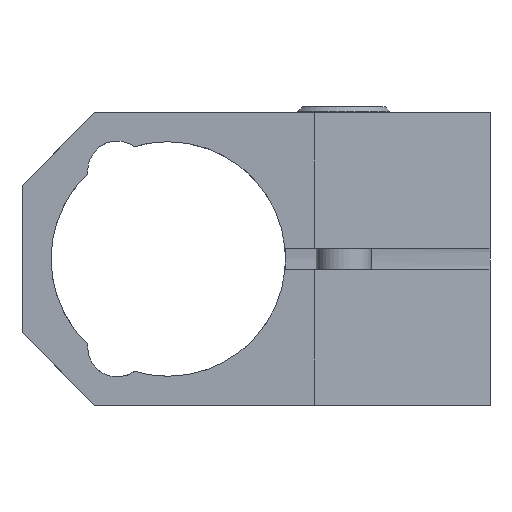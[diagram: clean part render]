
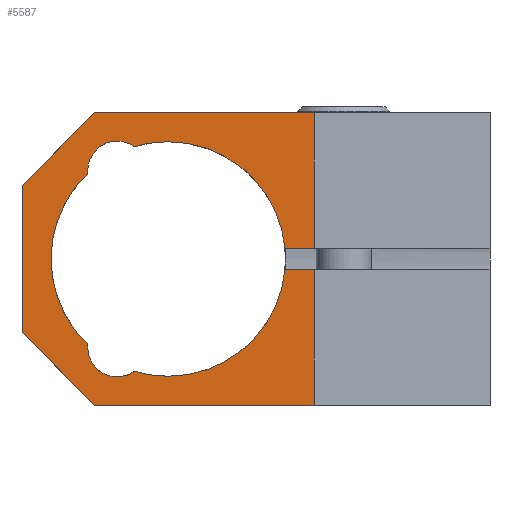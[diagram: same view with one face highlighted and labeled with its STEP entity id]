
A CAD part, front view. The second image highlights one B-rep face of the part: STEP entity #5587.
In plain terms, the highlighted planar face has unit normal (0, -1, 0).
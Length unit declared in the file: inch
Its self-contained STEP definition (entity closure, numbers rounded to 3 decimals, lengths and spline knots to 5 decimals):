
#1632 = EDGE_CURVE ( 'NONE', #11396, #12688, #12084, .T. ) ;
#1634 = EDGE_CURVE ( 'NONE', #12762, #12839, #12083, .T. ) ;
#1636 = EDGE_CURVE ( 'NONE', #12784, #12839, #12086, .T. ) ;
#1638 = EDGE_CURVE ( 'NONE', #12936, #11216, #12088, .T. ) ;
#1640 = EDGE_CURVE ( 'NONE', #11830, #12944, #12090, .T. ) ;
#1643 = EDGE_CURVE ( 'NONE', #13176, #12652, #12092, .T. ) ;
#1645 = EDGE_CURVE ( 'NONE', #11914, #12756, #12094, .T. ) ;
#1647 = EDGE_CURVE ( 'NONE', #12570, #13162, #12095, .T. ) ;
#2208 = EDGE_CURVE ( 'NONE', #12936, #12784, #4326, .T. ) ;
#3857 = EDGE_LOOP ( 'NONE', ( #10645, #10503, #10673, #10507, #10656, #10653, #10650, #10658, #10660, #10661, #10512, #10665, #10575, #10570, #10572, #10509, #10517 ) ) ;
#4326 = LINE ( 'NONE', #19300, #4327 ) ;
#4327 = VECTOR ( 'NONE', #18859, 39.37008 ) ;
#5587 = ADVANCED_FACE ( 'NONE', ( #20102 ), #13530, .T. ) ;
#6504 = LINE ( 'NONE', #21967, #6506 ) ;
#6506 = VECTOR ( 'NONE', #21966, 39.37008 ) ;
#6512 = LINE ( 'NONE', #21963, #6514 ) ;
#6514 = VECTOR ( 'NONE', #21962, 39.37008 ) ;
#6564 = LINE ( 'NONE', #21931, #6566 ) ;
#6566 = VECTOR ( 'NONE', #21930, 39.37008 ) ;
#6641 = CIRCLE ( 'NONE', #9157, 0.501 ) ;
#6652 = CIRCLE ( 'NONE', #9159, 0.501 ) ;
#6664 = CIRCLE ( 'NONE', #9164, 0.501 ) ;
#6774 = CIRCLE ( 'NONE', #15116, 0.501 ) ;
#6907 = DIRECTION ( 'NONE',  ( 0., 0., -1. ) ) ;
#6908 = DIRECTION ( 'NONE',  ( 0., -1., 0. ) ) ;
#6909 = CARTESIAN_POINT ( 'NONE',  ( 0.40625, 0., -1.00389 ) ) ;
#6954 = CARTESIAN_POINT ( 'NONE',  ( 0.48024, 0., -1.10463 ) ) ;
#7048 = CARTESIAN_POINT ( 'NONE',  ( 0., 0., -0.94 ) ) ;
#7078 = CARTESIAN_POINT ( 'NONE',  ( 0.48024, 0., -0.14537 ) ) ;
#7089 = CARTESIAN_POINT ( 'NONE',  ( 0., 0., -0.31 ) ) ;
#9106 = AXIS2_PLACEMENT_3D ( 'NONE', #6909, #6908, #6907 ) ;
#9157 = AXIS2_PLACEMENT_3D ( 'NONE', #21817, #21816, #21815 ) ;
#9159 = AXIS2_PLACEMENT_3D ( 'NONE', #21689, #21688, #21687 ) ;
#9164 = AXIS2_PLACEMENT_3D ( 'NONE', #21678, #22863, #21842 ) ;
#10073 = AXIS2_PLACEMENT_3D ( 'NONE', #13529, #13528, #13527 ) ;
#10503 = ORIENTED_EDGE ( 'NONE', *, *, #19945, .F. ) ;
#10507 = ORIENTED_EDGE ( 'NONE', *, *, #1634, .T. ) ;
#10509 = ORIENTED_EDGE ( 'NONE', *, *, #1647, .F. ) ;
#10512 = ORIENTED_EDGE ( 'NONE', *, *, #15326, .F. ) ;
#10517 = ORIENTED_EDGE ( 'NONE', *, *, #19977, .F. ) ;
#10570 = ORIENTED_EDGE ( 'NONE', *, *, #1645, .F. ) ;
#10572 = ORIENTED_EDGE ( 'NONE', *, *, #11920, .F. ) ;
#10575 = ORIENTED_EDGE ( 'NONE', *, *, #19941, .F. ) ;
#10645 = ORIENTED_EDGE ( 'NONE', *, *, #1632, .F. ) ;
#10650 = ORIENTED_EDGE ( 'NONE', *, *, #1638, .T. ) ;
#10653 = ORIENTED_EDGE ( 'NONE', *, *, #2208, .F. ) ;
#10656 = ORIENTED_EDGE ( 'NONE', *, *, #1636, .F. ) ;
#10658 = ORIENTED_EDGE ( 'NONE', *, *, #15328, .F. ) ;
#10660 = ORIENTED_EDGE ( 'NONE', *, *, #1640, .T. ) ;
#10661 = ORIENTED_EDGE ( 'NONE', *, *, #15341, .T. ) ;
#10665 = ORIENTED_EDGE ( 'NONE', *, *, #1643, .T. ) ;
#10673 = ORIENTED_EDGE ( 'NONE', *, *, #19932, .F. ) ;
#10921 = DIRECTION ( 'NONE',  ( 0., 0., -1. ) ) ;
#10922 = DIRECTION ( 'NONE',  ( 0., -1., 0. ) ) ;
#10925 = CARTESIAN_POINT ( 'NONE',  ( 0.40625, 0., -1.00389 ) ) ;
#10926 = DIRECTION ( 'NONE',  ( 0., 0., -1. ) ) ;
#10927 = DIRECTION ( 'NONE',  ( 0., -1., 0. ) ) ;
#10928 = CARTESIAN_POINT ( 'NONE',  ( 0.625, 0., -0.625 ) ) ;
#10929 = DIRECTION ( 'NONE',  ( -1., 0., 0. ) ) ;
#10930 = CARTESIAN_POINT ( 'NONE',  ( 0.70835, 0., -0.67 ) ) ;
#10931 = DIRECTION ( 'NONE',  ( 0.707, 0., -0.707 ) ) ;
#10932 = CARTESIAN_POINT ( 'NONE',  ( 0.155, 0., -1.095 ) ) ;
#10933 = DIRECTION ( 'NONE',  ( -0.707, 0., -0.707 ) ) ;
#10934 = CARTESIAN_POINT ( 'NONE',  ( -0.47, 0., -0.78 ) ) ;
#10935 = DIRECTION ( 'NONE',  ( 0., 0., -1. ) ) ;
#10936 = CARTESIAN_POINT ( 'NONE',  ( 1.25, 0., -1.25 ) ) ;
#10937 = DIRECTION ( 'NONE',  ( 1., 0., 0. ) ) ;
#10938 = CARTESIAN_POINT ( 'NONE',  ( 0.70835, 0., -0.58 ) ) ;
#10939 = DIRECTION ( 'NONE',  ( 0., 0., -1. ) ) ;
#10940 = DIRECTION ( 'NONE',  ( 0., -1., 0. ) ) ;
#10941 = CARTESIAN_POINT ( 'NONE',  ( 0.40625, 0., -0.24611 ) ) ;
#11216 = VERTEX_POINT ( 'NONE', #7089 ) ;
#11396 = VERTEX_POINT ( 'NONE', #7078 ) ;
#11830 = VERTEX_POINT ( 'NONE', #7048 ) ;
#11914 = VERTEX_POINT ( 'NONE', #6954 ) ;
#11920 = EDGE_CURVE ( 'NONE', #13162, #11914, #15432, .T. ) ;
#12083 = LINE ( 'NONE', #10938, #12085 ) ;
#12084 = CIRCLE ( 'NONE', #20002, 0.125 ) ;
#12085 = VECTOR ( 'NONE', #10937, 39.37008 ) ;
#12086 = LINE ( 'NONE', #10936, #12087 ) ;
#12087 = VECTOR ( 'NONE', #10935, 39.37008 ) ;
#12088 = LINE ( 'NONE', #10934, #12089 ) ;
#12089 = VECTOR ( 'NONE', #10933, 39.37008 ) ;
#12090 = LINE ( 'NONE', #10932, #12091 ) ;
#12091 = VECTOR ( 'NONE', #10931, 39.37008 ) ;
#12092 = LINE ( 'NONE', #10930, #12093 ) ;
#12093 = VECTOR ( 'NONE', #10929, 39.37008 ) ;
#12094 = CIRCLE ( 'NONE', #20003, 0.501 ) ;
#12095 = CIRCLE ( 'NONE', #20004, 0.125 ) ;
#12570 = VERTEX_POINT ( 'NONE', #17949 ) ;
#12652 = VERTEX_POINT ( 'NONE', #17901 ) ;
#12688 = VERTEX_POINT ( 'NONE', #17878 ) ;
#12756 = VERTEX_POINT ( 'NONE', #17835 ) ;
#12762 = VERTEX_POINT ( 'NONE', #17831 ) ;
#12784 = VERTEX_POINT ( 'NONE', #17819 ) ;
#12839 = VERTEX_POINT ( 'NONE', #17783 ) ;
#12876 = VERTEX_POINT ( 'NONE', #17759 ) ;
#12936 = VERTEX_POINT ( 'NONE', #17705 ) ;
#12944 = VERTEX_POINT ( 'NONE', #17697 ) ;
#13162 = VERTEX_POINT ( 'NONE', #17457 ) ;
#13176 = VERTEX_POINT ( 'NONE', #17441 ) ;
#13179 = VERTEX_POINT ( 'NONE', #17438 ) ;
#13527 = DIRECTION ( 'NONE',  ( 0., 0., -1. ) ) ;
#13528 = DIRECTION ( 'NONE',  ( 0., -1., 0. ) ) ;
#13529 = CARTESIAN_POINT ( 'NONE',  ( 0., 0., -1.25 ) ) ;
#13530 = PLANE ( 'NONE',  #10073 ) ;
#15116 = AXIS2_PLACEMENT_3D ( 'NONE', #16471, #16469, #16464 ) ;
#15326 = EDGE_CURVE ( 'NONE', #13176, #13179, #6504, .T. ) ;
#15328 = EDGE_CURVE ( 'NONE', #11830, #11216, #6512, .T. ) ;
#15341 = EDGE_CURVE ( 'NONE', #12944, #13179, #6564, .T. ) ;
#15432 = CIRCLE ( 'NONE', #9106, 0.125 ) ;
#16464 = DIRECTION ( 'NONE',  ( 0., 0., -1. ) ) ;
#16469 = DIRECTION ( 'NONE',  ( 0., -1., 0. ) ) ;
#16471 = CARTESIAN_POINT ( 'NONE',  ( 0.625, 0., -0.625 ) ) ;
#17438 = CARTESIAN_POINT ( 'NONE',  ( 1.25, 0., -1.25 ) ) ;
#17441 = CARTESIAN_POINT ( 'NONE',  ( 1.25, 0., -0.67 ) ) ;
#17457 = CARTESIAN_POINT ( 'NONE',  ( 0.40625, 0., -1.12889 ) ) ;
#17697 = CARTESIAN_POINT ( 'NONE',  ( 0.31, 0., -1.25 ) ) ;
#17705 = CARTESIAN_POINT ( 'NONE',  ( 0.31, 0., 0. ) ) ;
#17759 = CARTESIAN_POINT ( 'NONE',  ( 0.625, 0., -0.124 ) ) ;
#17783 = CARTESIAN_POINT ( 'NONE',  ( 1.25, 0., -0.58 ) ) ;
#17819 = CARTESIAN_POINT ( 'NONE',  ( 1.25, 0., 0. ) ) ;
#17831 = CARTESIAN_POINT ( 'NONE',  ( 1.12397, 0., -0.58 ) ) ;
#17835 = CARTESIAN_POINT ( 'NONE',  ( 0.625, 0., -1.126 ) ) ;
#17878 = CARTESIAN_POINT ( 'NONE',  ( 0.282, 0., -0.25982 ) ) ;
#17901 = CARTESIAN_POINT ( 'NONE',  ( 1.12397, 0., -0.67 ) ) ;
#17949 = CARTESIAN_POINT ( 'NONE',  ( 0.282, 0., -0.99018 ) ) ;
#18859 = DIRECTION ( 'NONE',  ( 1., 0., 0. ) ) ;
#19300 = CARTESIAN_POINT ( 'NONE',  ( 0., 0., 0. ) ) ;
#19932 = EDGE_CURVE ( 'NONE', #12762, #12876, #6641, .T. ) ;
#19941 = EDGE_CURVE ( 'NONE', #12756, #12652, #6652, .T. ) ;
#19945 = EDGE_CURVE ( 'NONE', #12876, #11396, #6664, .T. ) ;
#19977 = EDGE_CURVE ( 'NONE', #12688, #12570, #6774, .T. ) ;
#20002 = AXIS2_PLACEMENT_3D ( 'NONE', #10941, #10940, #10939 ) ;
#20003 = AXIS2_PLACEMENT_3D ( 'NONE', #10928, #10927, #10926 ) ;
#20004 = AXIS2_PLACEMENT_3D ( 'NONE', #10925, #10922, #10921 ) ;
#20102 = FACE_OUTER_BOUND ( 'NONE', #3857, .T. ) ;
#21678 = CARTESIAN_POINT ( 'NONE',  ( 0.625, 0., -0.625 ) ) ;
#21687 = DIRECTION ( 'NONE',  ( 0., 0., -1. ) ) ;
#21688 = DIRECTION ( 'NONE',  ( 0., -1., 0. ) ) ;
#21689 = CARTESIAN_POINT ( 'NONE',  ( 0.625, 0., -0.625 ) ) ;
#21815 = DIRECTION ( 'NONE',  ( 0., 0., -1. ) ) ;
#21816 = DIRECTION ( 'NONE',  ( 0., -1., 0. ) ) ;
#21817 = CARTESIAN_POINT ( 'NONE',  ( 0.625, 0., -0.625 ) ) ;
#21842 = DIRECTION ( 'NONE',  ( 0., 0., -1. ) ) ;
#21930 = DIRECTION ( 'NONE',  ( 1., 0., 0. ) ) ;
#21931 = CARTESIAN_POINT ( 'NONE',  ( 0., 0., -1.25 ) ) ;
#21962 = DIRECTION ( 'NONE',  ( 0., 0., 1. ) ) ;
#21963 = CARTESIAN_POINT ( 'NONE',  ( 0., 0., -1.25 ) ) ;
#21966 = DIRECTION ( 'NONE',  ( 0., 0., -1. ) ) ;
#21967 = CARTESIAN_POINT ( 'NONE',  ( 1.25, 0., -1.25 ) ) ;
#22863 = DIRECTION ( 'NONE',  ( 0., -1., 0. ) ) ;
